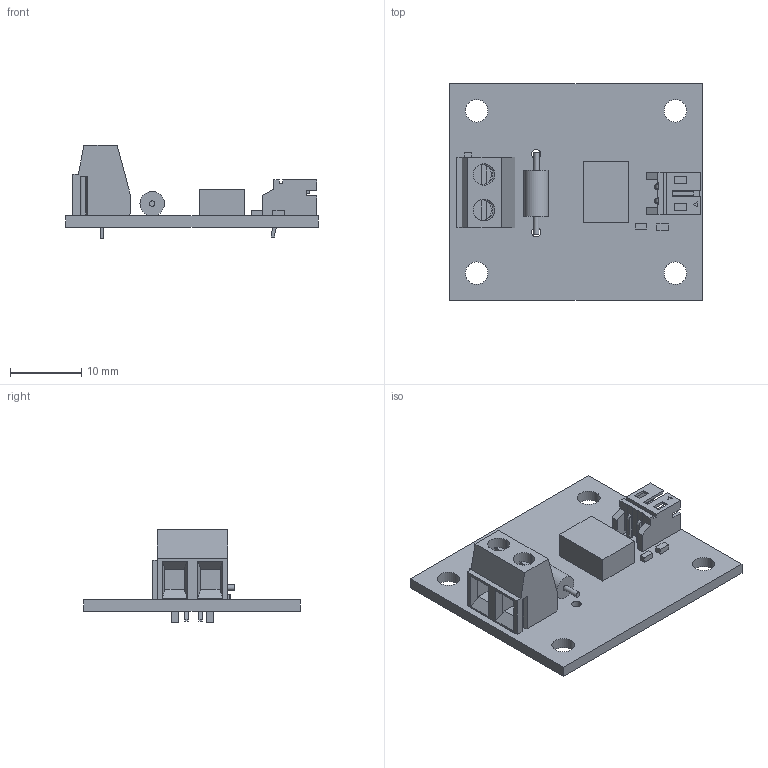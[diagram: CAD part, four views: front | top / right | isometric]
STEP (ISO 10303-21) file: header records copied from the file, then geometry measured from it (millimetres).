
FILE_DESCRIPTION(('Open CASCADE Model'),'2;1');
FILE_NAME('Open CASCADE Shape Model','2010-12-07T11:30:41',('Author'),( 'Open CASCADE'),'Open CASCADE STEP processor 6.2','Open CASCADE 6.2' ,'Unknown');
FILE_SCHEMA(('AUTOMOTIVE_DESIGN { 1 0 10303 214 1 1 1 1 }'));
Length unit declared in the file: millimetre
Products named in the file (26): PCB; Board; R1; 494649536; Extruded; U1; 494652352; D1; 494631824; Cylinder; 494634512; 494631600; D2; 606044944; J1; 894010210; Open CASCADE STEP translator 6.2 66.6.1.1; Open CASCADE STEP translator 6.2 66.6.1.2; J3; 398900302; Open CASCADE STEP translator 6.2 66.7.1.1; Open CASCADE STEP translator 6.2 66.7.1.2
Assembly tree (25 placements, depth 4):
  PCB
    Board
    R1
      494649536
        Extruded
    U1
      494652352
        Extruded
    D1
      494631824
        Cylinder
      494634512
        Cylinder
      494631600
        Cylinder
    D2
      606044944
        Extruded
    J1
      894010210
        Open CASCADE STEP translator 6.2 66.6.1.1
        Open CASCADE STEP translator 6.2 66.6.1.2
    J3
      398900302
        Open CASCADE STEP translator 6.2 66.7.1.1
        Open CASCADE STEP translator 6.2 66.7.1.2
Bounding box: 35.56 x 30.48 x 13.08 mm (x, y, z)
Volume: 2538.9 mm3; surface area: 3812.7 mm2
Topology: 9 solids, 9 shells, 233 faces, 628 edges, 434 vertices
Faces by surface type: plane 201, cylinder 28, cone 2, torus 2
Full cylindrical faces by diameter (mm): 0.762 x2, 0.813 x2, 1.321 x4, 3.175 x4, 3.454 x1
Entity records: 17451 total; most frequent: CARTESIAN_POINT 4581, DIRECTION 2295, LINE 1564, VECTOR 1564, ORIENTED_EDGE 1228, PCURVE 1228, DEFINITIONAL_REPRESENTATION 1228, EDGE_CURVE 614
